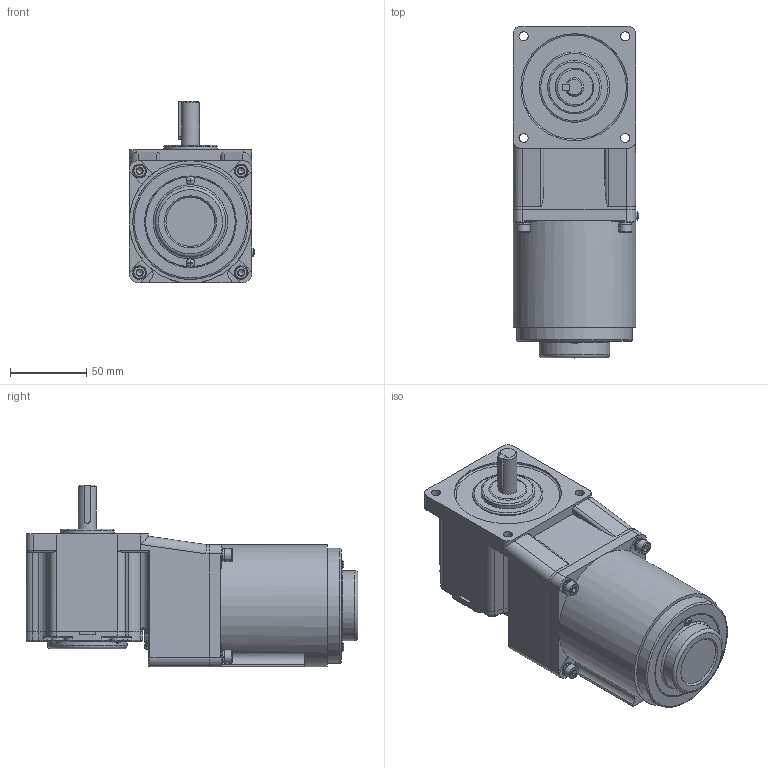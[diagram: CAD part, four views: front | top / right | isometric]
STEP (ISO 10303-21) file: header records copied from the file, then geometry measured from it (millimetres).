
FILE_DESCRIPTION(/* description */ (''),/* implementation_level */ '2;1');
FILE_NAME(/* name */ '80+中实直角-调速-25W.stp',/* time_stamp */ '2022-11-01T12:51:52+08:00',/* author */ (''),/* organization */ (''),/* preprocessor_version */ 'ST-DEVELOPER v16.7',/* originating_system */ 'SIEMENS PLM Software NX 1899',/* authorisation */ '');
FILE_SCHEMA (('AP203_CONFIGURATION_CONTROLLED_3D_DESIGN_OF_MECHANICAL_PARTS_AND_ASSEMBLIES_MIM_LF { 1 0 10303 403 2 1 2}'));
Length unit declared in the file: millimetre
Products named in the file (1): yf1854BC0762njft
Bounding box: 82.09 x 217 x 119 mm (x, y, z)
Volume: 1138399.2 mm3; surface area: 108028 mm2
Topology: 15 solids, 15 shells, 645 faces, 1507 edges, 922 vertices
Faces by surface type: plane 331, cylinder 187, torus 58, cone 43, bspline 16, sphere 10
Full cylindrical faces by diameter (mm): 4.2 x4, 4.826 x4, 5 x8, 5.3 x4, 5.6 x3, 6 x8, 8 x4, 8.5 x4, 9 x4, 12 x1, 25 x1, 35 x1, 46 x2, 52 x1, 56 x1, 58.6 x1, 60 x1, 70 x1, 75.5 x1, 76 x2, 80 x1
Entity records: 19785 total; most frequent: CARTESIAN_POINT 4449, DIRECTION 2999, ORIENTED_EDGE 2702, EDGE_CURVE 1351, AXIS2_PLACEMENT_3D 1177, VERTEX_POINT 875, EDGE_LOOP 800, LINE 645
